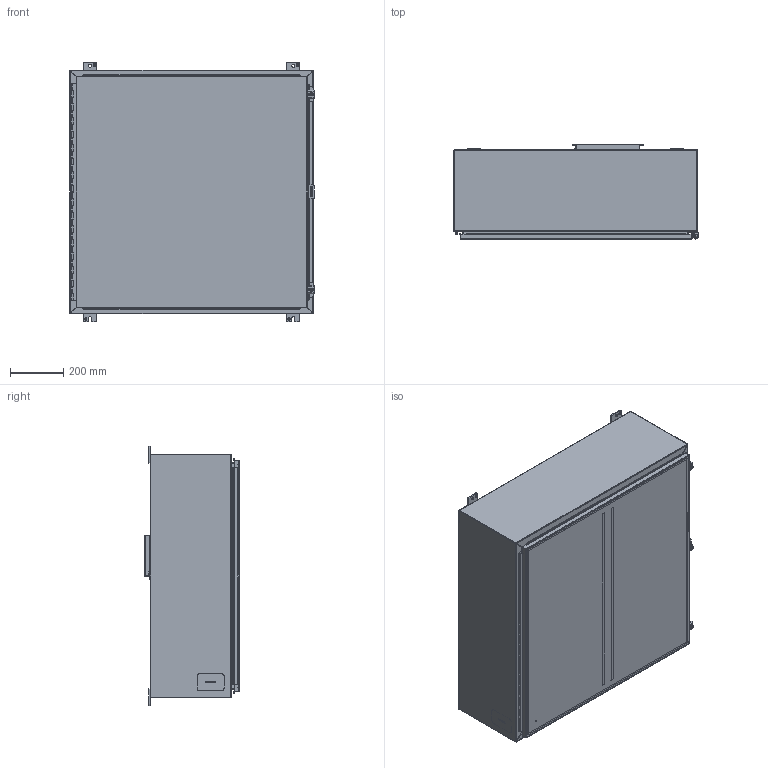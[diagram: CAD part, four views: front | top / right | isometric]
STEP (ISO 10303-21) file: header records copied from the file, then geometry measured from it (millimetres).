
FILE_DESCRIPTION(/* description */ ('Unknown'),/* implementation_level */ '2;1');
FILE_NAME(/* name */ '1418LL12',/* time_stamp */ '2021-11-29T16:31:31-05:00',/* author */ ('Unknown'),/* organization */ ('Unknown'),/* preprocessor_version */ 'ST-DEVELOPER v18.1',/* originating_system */ 'Solid Edge',/* authorisation */ 'Unknown');
FILE_SCHEMA (('AUTOMOTIVE_DESIGN {1 0 10303 214 3 1 1}'));
Length unit declared in the file: millimetre
Products named in the file (38): 1418LL12; KIT90256; LAB30005; NTS165305; NTS16535; STD26094; STD21878; COM42780; COM55702-99; AKT95002; WAF25059; NTS166105; COM40153-1; COM71105-1; COM40153-2; HNG10610-32C; COM55702-20; COM48489; FET07710; HNG10610-32B; AKT90223; SPR20265; SCC19011; WAF25035; COM42667; BUL10020; QLB20279; PKT99; COM55702-2; COM70236-3; KIT90518; HNG10620-32P; COM70219_oa_0; PNT11078; COM42190; PNT02085
Assembly tree (58 placements, depth 3):
  1418LL12
    KIT90256
      LAB30005
      NTS165305
      NTS16535
    STD26094  x8
    STD21878
    COM42780  x2
    COM55702-99  x2
    AKT95002  x4
      WAF25059
      NTS166105
    COM40153-1
    COM71105-1
      COM40153-2
      COM71105-1
      STD21878
      HNG10610-32C
      COM55702-20
    COM48489
    FET07710  x4
    HNG10610-32B
    AKT90223  x2
      SPR20265
      SCC19011
      WAF25035
      COM42667
    BUL10020
    QLB20279
    PKT99
    COM55702-2
    COM70236-3  x2
    KIT90518
      WAF25059
      NTS166105
      LAB30005
    HNG10620-32P
    COM70219_oa_0
    PNT11078
    COM42190
      PNT02085
      COM42190
Bounding box: 917.58 x 358.77 x 971.55 mm (x, y, z)
Volume: 8173629.6 mm3; surface area: 8420010.6 mm2
Topology: 53 solids, 54 shells, 1517 faces, 3896 edges, 2528 vertices
Faces by surface type: plane 978, cylinder 414, bspline 61, torus 32, cone 30, sphere 2
Full cylindrical faces by diameter (mm): 3.175 x1, 4.763 x1, 4.976 x1, 5.41 x2, 6.198 x2, 6.35 x3, 6.731 x2, 7.137 x2, 7.805 x5, 7.938 x4, 8.382 x8, 9.525 x8, 9.906 x2, 11.113 x4, 11.303 x5, 12.7 x10, 16.51 x8, 25.4 x5, 88.9 x1
Entity records: 37522 total; most frequent: CARTESIAN_POINT 10793, ORIENTED_EDGE 5364, DIRECTION 5131, EDGE_CURVE 2682, LINE 1813, VECTOR 1813, VERTEX_POINT 1755, AXIS2_PLACEMENT_3D 1659
